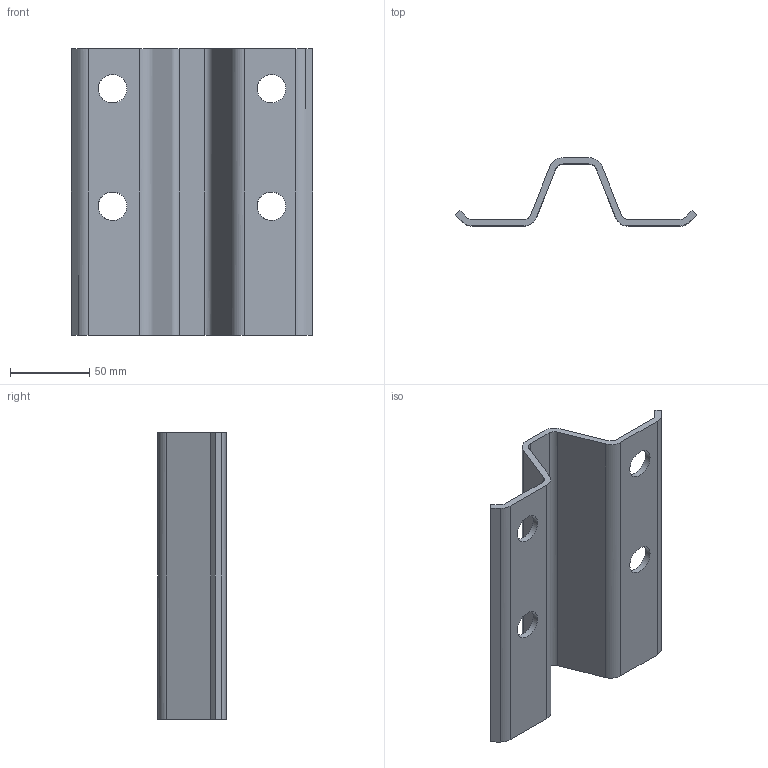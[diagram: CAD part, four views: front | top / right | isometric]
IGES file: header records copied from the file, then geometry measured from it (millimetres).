
Global section: file name: C225; native system: Autodesk RealDWG; preprocessor: Autodesk Translation Framework DWG producer (atf_dwg_producer); organization: unknown; date: 20230703.110807; units: centimetre
Bounding box: 151.72 x 43 x 180 mm (x, y, z)
Volume: 141236.8 mm3; surface area: 74581.8 mm2
Topology: 1 solids, 1 shells, 34 faces, 96 edges, 64 vertices
Faces by surface type: bspline 34
